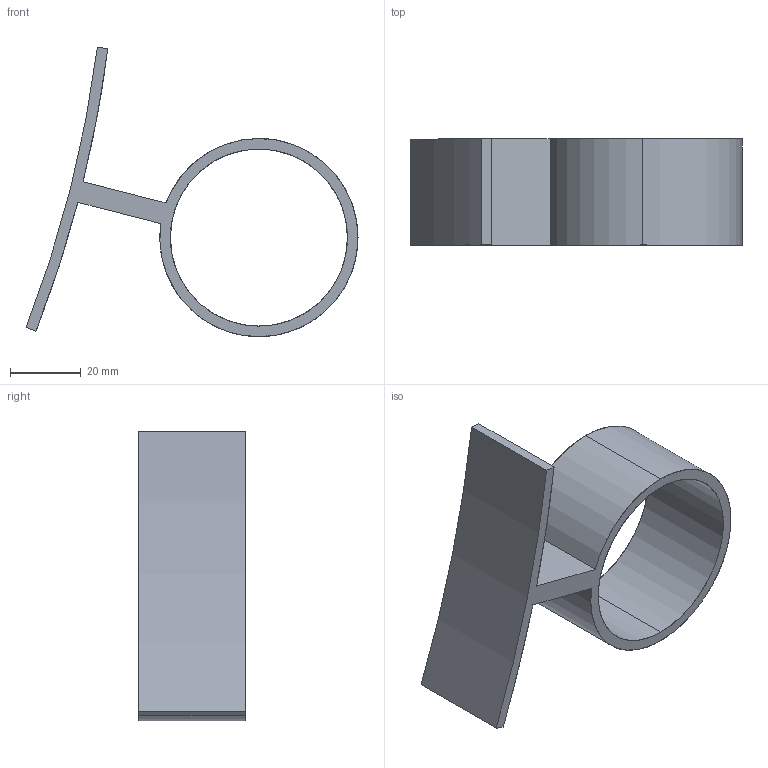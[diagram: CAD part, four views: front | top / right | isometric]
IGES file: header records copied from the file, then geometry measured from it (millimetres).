
Start section: SolidWorks IGES file using analytic representation for surfaces
Global section: file name: C:\Users\sebas\Documents\SOLIDWORKSComposer\TESIS\3. Dosificadora\IGS\Soporte para eje de dosificadora.IGS; native system: SolidWorks 2022; preprocessor: SolidWorks 2022; author: sebas; date: 220619.065910; units: millimetre
Bounding box: 93.8 x 30 x 81.76 mm (x, y, z)
Surface area: 17974.8 mm2 (no closed solid volume)
Topology: 0 solids, 0 shells, 14 faces, 312 edges, 312 vertices
Faces by surface type: revolution 8, bspline 6
